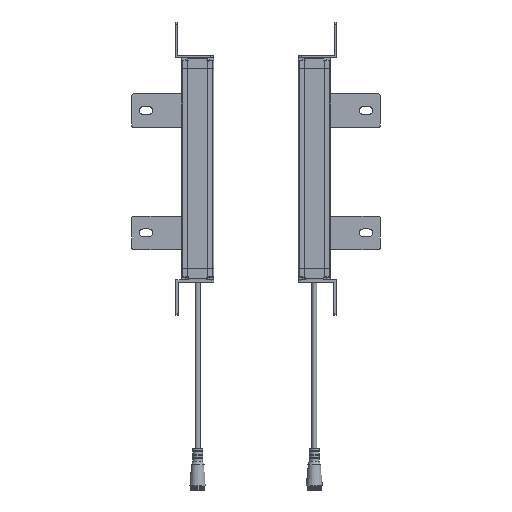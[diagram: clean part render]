
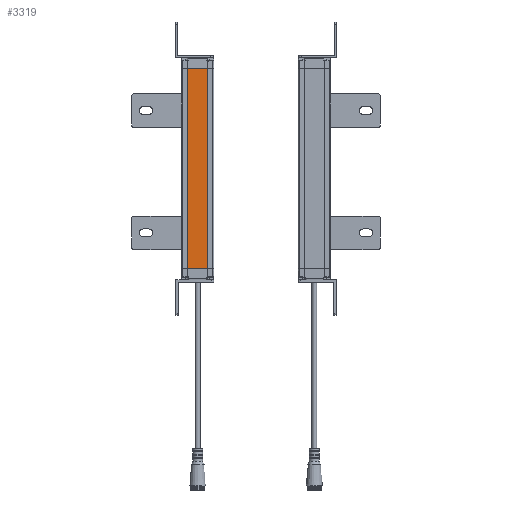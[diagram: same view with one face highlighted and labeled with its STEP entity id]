
A CAD part, left-side view. The second image highlights one B-rep face of the part: STEP entity #3319.
In plain terms, the highlighted planar face has unit normal (-1, 0, 0).
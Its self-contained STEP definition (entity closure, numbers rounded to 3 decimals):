
#1795=FACE_OUTER_BOUND('',#5986,.T.);
#3319=ADVANCED_FACE('',(#1795),#4749,.T.);
#4749=PLANE('',#29857);
#5986=EDGE_LOOP('',(#9184,#9185,#9186,#9187));
#9184=ORIENTED_EDGE('',*,*,#19383,.F.);
#9185=ORIENTED_EDGE('',*,*,#19072,.T.);
#9186=ORIENTED_EDGE('',*,*,#19385,.T.);
#9187=ORIENTED_EDGE('',*,*,#19386,.F.);
#16145=VERTEX_POINT('',#43699);
#16146=VERTEX_POINT('',#43701);
#16357=VERTEX_POINT('',#44323);
#16358=VERTEX_POINT('',#44327);
#19072=EDGE_CURVE('',#16146,#16145,#24663,.T.);
#19383=EDGE_CURVE('',#16146,#16357,#24884,.T.);
#19385=EDGE_CURVE('',#16145,#16358,#24886,.T.);
#19386=EDGE_CURVE('',#16357,#16358,#24887,.T.);
#24663=LINE('',#43700,#27142);
#24884=LINE('',#44322,#27363);
#24886=LINE('',#44326,#27365);
#24887=LINE('',#44328,#27366);
#27142=VECTOR('',#33404,1.);
#27363=VECTOR('',#34005,1.);
#27365=VECTOR('',#34009,1.);
#27366=VECTOR('',#34010,1.);
#29857=AXIS2_PLACEMENT_3D('',#44329,#34011,#34012);
#33404=DIRECTION('',(0.,1.,0.));
#34005=DIRECTION('',(0.,0.,-1.));
#34009=DIRECTION('',(0.,0.,-1.));
#34010=DIRECTION('',(0.,1.,0.));
#34011=DIRECTION('',(-1.,0.,0.));
#34012=DIRECTION('',(0.,1.,0.));
#43699=CARTESIAN_POINT('',(50.4,-5.5,138.059));
#43700=CARTESIAN_POINT('',(50.4,-5.5,138.059));
#43701=CARTESIAN_POINT('',(50.4,-23.5,138.059));
#44322=CARTESIAN_POINT('',(50.4,-23.5,103.059));
#44323=CARTESIAN_POINT('',(50.4,-23.5,-41.941));
#44326=CARTESIAN_POINT('',(50.4,-5.5,103.059));
#44327=CARTESIAN_POINT('',(50.4,-5.5,-41.941));
#44328=CARTESIAN_POINT('',(50.4,-23.5,-41.941));
#44329=CARTESIAN_POINT('',(50.4,-5.5,-61.941));
